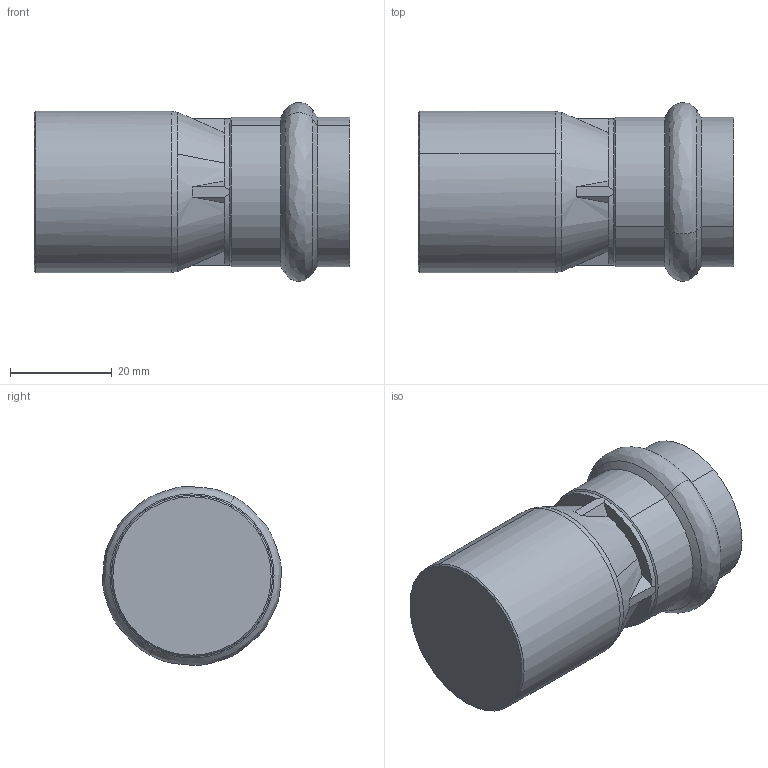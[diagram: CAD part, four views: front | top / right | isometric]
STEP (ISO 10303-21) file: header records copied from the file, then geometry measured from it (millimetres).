
FILE_DESCRIPTION(('STEP AP214'),'1');
FILE_NAME('pim0004347.stp','2015-04-30T10:39:12',('Cad-Pim'),('TransMagic, Inc.'),'TMR11sp0','TransMagic R11',' ');
FILE_SCHEMA(('AUTOMOTIVE_DESIGN'));
Length unit declared in the file: millimetre
Products named in the file (1): pim0004347
Bounding box: 62 x 35.16 x 35.17 mm (x, y, z)
Volume: 34332.5 mm3; surface area: 9807.2 mm2
Topology: 1 solids, 1 shells, 53 faces, 133 edges, 83 vertices
Faces by surface type: bspline 39, cylinder 8, cone 6
Entity records: 2234 total; most frequent: CARTESIAN_POINT 879, ORIENTED_EDGE 266, EDGE_CURVE 133, DIRECTION 84, VERTEX_POINT 83, STYLED_ITEM 54, PRESENTATION_STYLE_ASSIGNMENT 54, SURFACE_STYLE_USAGE 54
